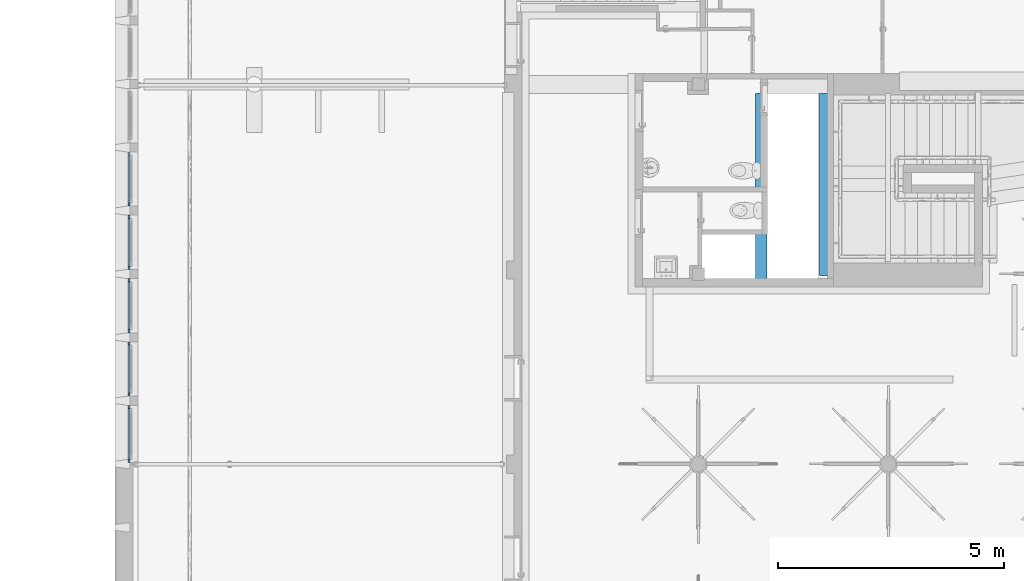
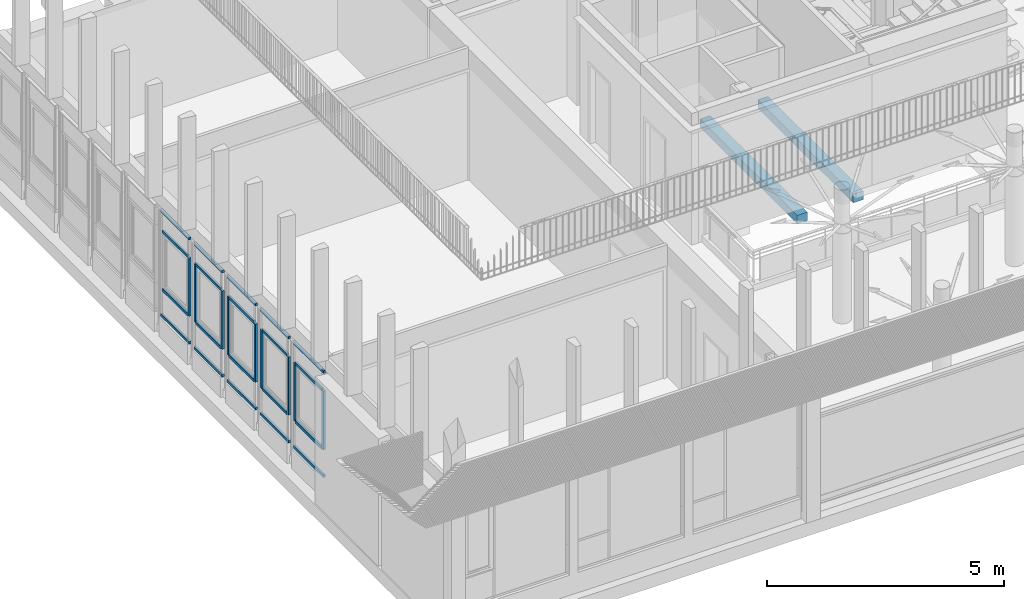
# One storey, part 5 of 65: 29 members, 2 beams, 5 elements without a shape of their own.
"""IFC4 building model written with IfcOpenShell, lengths in metres."""

from ifc_helpers import new_model, entity, si_unit, converted_unit, derived_unit, direction, frame, origin, place, context, subcontext, project, spatial, indexed_curve, outline, extrude, source, transform, mapped, material, type_object, type_shapes, element, aggregate, save


model = new_model("IFC4")

# Units and contexts
model_context = context("Model", 3, precision=1e-05, world=origin(), true_north=direction((6.12303176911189e-17, 1.0)))
body_context = subcontext(model_context, "Body", "Model", "MODEL_VIEW")
ifc_project = project(units=[si_unit("LENGTHUNIT", "METRE"), si_unit("AREAUNIT", "SQUARE_METRE"), si_unit("VOLUMEUNIT", "CUBIC_METRE"), converted_unit("PLANEANGLEUNIT", "DEGREE", entity("IfcRatioMeasure", 0.0174532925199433), si_unit("PLANEANGLEUNIT", "RADIAN"), dimensions=[0, 0, 0, 0, 0, 0, 0]), si_unit("MASSUNIT", "GRAM", prefix="KILO"), derived_unit("MASSDENSITYUNIT", [(si_unit("MASSUNIT", "GRAM", prefix="KILO"), 1), (si_unit("LENGTHUNIT", "METRE"), -3)]), derived_unit("MOMENTOFINERTIAUNIT", [(si_unit("LENGTHUNIT", "METRE"), 4)]), si_unit("TIMEUNIT", "SECOND"), si_unit("FREQUENCYUNIT", "HERTZ"), si_unit("THERMODYNAMICTEMPERATUREUNIT", "DEGREE_CELSIUS"), derived_unit("THERMALTRANSMITTANCEUNIT", [(si_unit("MASSUNIT", "GRAM", prefix="KILO"), 1), (si_unit("THERMODYNAMICTEMPERATUREUNIT", "KELVIN"), -1), (si_unit("TIMEUNIT", "SECOND"), -3)]), derived_unit("VOLUMETRICFLOWRATEUNIT", [(si_unit("LENGTHUNIT", "METRE"), 3), (si_unit("TIMEUNIT", "SECOND"), -1)]), si_unit("ELECTRICCURRENTUNIT", "AMPERE"), si_unit("ELECTRICVOLTAGEUNIT", "VOLT"), si_unit("POWERUNIT", "WATT"), si_unit("FORCEUNIT", "NEWTON", prefix="KILO"), si_unit("ILLUMINANCEUNIT", "LUX"), si_unit("LUMINOUSFLUXUNIT", "LUMEN"), si_unit("LUMINOUSINTENSITYUNIT", "CANDELA"), derived_unit("USERDEFINED", [(si_unit("MASSUNIT", "GRAM", prefix="KILO"), -1), (si_unit("LENGTHUNIT", "METRE"), -2), (si_unit("TIMEUNIT", "SECOND"), 3), (si_unit("LUMINOUSFLUXUNIT", "LUMEN"), 1)]), derived_unit("LINEARVELOCITYUNIT", [(si_unit("LENGTHUNIT", "METRE"), 1), (si_unit("TIMEUNIT", "SECOND"), -1)]), si_unit("PRESSUREUNIT", "PASCAL"), derived_unit("USERDEFINED", [(si_unit("LENGTHUNIT", "METRE"), -2), (si_unit("MASSUNIT", "GRAM", prefix="KILO"), 1), (si_unit("TIMEUNIT", "SECOND"), -2)]), derived_unit("LINEARFORCEUNIT", [(si_unit("MASSUNIT", "GRAM", prefix="KILO"), 1), (si_unit("LENGTHUNIT", "METRE"), 1), (si_unit("TIMEUNIT", "SECOND"), -2), (si_unit("LENGTHUNIT", "METRE"), -1)]), derived_unit("PLANARFORCEUNIT", [(si_unit("MASSUNIT", "GRAM", prefix="KILO"), 1), (si_unit("LENGTHUNIT", "METRE"), 1), (si_unit("TIMEUNIT", "SECOND"), -2), (si_unit("LENGTHUNIT", "METRE"), -2)])], contexts=[model_context])

# Site, building, storey
site_placement = place(None, origin())
site = spatial("IfcSite", under=ifc_project, at=site_placement, Name="Default", CompositionType="ELEMENT")
building_placement = place(site_placement, origin())
building = spatial("IfcBuilding", under=site, at=building_placement, Name="HOTEL CONSULAIRE BOULOGNE SUR MER", CompositionType="ELEMENT")
storey_placement = place(building_placement, origin())
storey = spatial("IfcBuildingStorey", under=building, at=storey_placement, Name="Niveau 0", CompositionType="ELEMENT", Elevation=1.31981936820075e-13)

# Curtain wall, members
curtain_wall_type = type_object("IfcCurtainWallType", Name="Mur-rideau:Simple panneau", PredefinedType="NOTDEFINED")
curtain_wall_1_placement = place(storey_placement, origin())
curtain_wall_1 = element("IfcCurtainWall", 1, at=curtain_wall_1_placement, inside=storey, type_object=curtain_wall_type, Name="Mur-rideau:Simple panneau", ObjectType="Mur-rideau:Simple panneau", PredefinedType="NOTDEFINED")
ifc_material_1 = material(Name="PVC - Blanc", Category="Plastique")
member_type_1 = type_object("IfcMemberType", Name="Meneau rectangulaire:50 x 35", PredefinedType="MULLION", material=ifc_material_1)
shared_shape_1 = source(origin(), body_context, "Body", "SweptSolid", [
    extrude(outline(indexed_curve([(-0.025, -0.035), (0.025, -0.035), (0.025, 0.035), (-0.025, 0.035), (-0.025, -0.035)], self_intersect=False)), frame((-0.035, -0.025, -1.26360092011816), z_axis=(0.0, 0.0, 1.0), x_axis=(0.0, -1.0, 0.0)), (0.0, 0.0, 1.0), 1.26360092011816),
])
type_shapes(member_type_1, [shared_shape_1])
member_1_placement = place(storey_placement, frame((-13.7900998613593, -22.7114499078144, 3.03999999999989), z_axis=(0.0, 1.0, 0.0), x_axis=(0.0, 0.0, 1.0)))
member_1 = element("IfcMember", 2, at=member_1_placement, type_object=member_type_1, material=ifc_material_1, Name="Meneau rectangulaire:50 x 35", ObjectType="Meneau rectangulaire:50 x 35", PredefinedType="MULLION", context=body_context, shape_type="MappedRepresentation", body=[
    mapped(shared_shape_1, transform((0.0, 0.0, 0.0), scale=1.0)),
])
member_type_2 = type_object("IfcMemberType", Name="Meneau rectangulaire:50 x 35", PredefinedType="MULLION", material=ifc_material_1)
shared_shape_2 = source(origin(), body_context, "Body", "SweptSolid", [
    extrude(outline(indexed_curve([(-0.025, -0.035), (0.025, -0.035), (0.025, 0.035), (-0.025, 0.035), (-0.025, -0.035)], self_intersect=False)), frame((-0.035, -0.025, -1.26360092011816), z_axis=(0.0, 0.0, 1.0), x_axis=(0.0, -1.0, 0.0)), (0.0, 0.0, 1.0), 1.26360092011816),
])
type_shapes(member_type_2, [shared_shape_2])
member_2_placement = place(storey_placement, frame((-13.7900998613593, -23.9750508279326, 0.289999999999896), z_axis=(0.0, -1.0, 0.0), x_axis=(0.0, 0.0, -1.0)))
member_2 = element("IfcMember", 3, at=member_2_placement, type_object=member_type_2, material=ifc_material_1, Name="Meneau rectangulaire:50 x 35", ObjectType="Meneau rectangulaire:50 x 35", PredefinedType="MULLION", context=body_context, shape_type="MappedRepresentation", body=[
    mapped(shared_shape_2, transform((0.0, 0.0, 0.0), scale=1.0)),
])
member_type_3 = type_object("IfcMemberType", Name="Meneau rectangulaire:50 x 35", PredefinedType="MULLION", material=ifc_material_1)
shared_shape_3 = source(origin(), body_context, "Body", "SweptSolid", [
    extrude(outline(indexed_curve([(-0.025, -0.035), (0.025, -0.035), (0.025, 0.035), (-0.025, 0.035), (-0.025, -0.035)], self_intersect=False)), frame((0.0, -0.025, -1.12360092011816), z_axis=(0.0, 0.0, 1.0), x_axis=(0.0, -1.0, 0.0)), (0.0, 0.0, 1.0), 1.12360092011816),
])
type_shapes(member_type_3, [shared_shape_3])
member_3_placement = place(storey_placement, frame((-13.7900998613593, -22.7814499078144, 1.0069999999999), z_axis=(0.0, 1.0, 0.0), x_axis=(0.0, 0.0, 1.0)))
member_3 = element("IfcMember", 4, at=member_3_placement, type_object=member_type_3, material=ifc_material_1, Name="Meneau rectangulaire:50 x 35", ObjectType="Meneau rectangulaire:50 x 35", PredefinedType="MULLION", context=body_context, shape_type="MappedRepresentation", body=[
    mapped(shared_shape_3, transform((0.0, 0.0, 0.0), scale=1.0)),
])
member_4_placement = place(storey_placement, frame((-13.7900998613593, -22.7814499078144, 2.5109999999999), z_axis=(0.0, 1.0, 0.0), x_axis=(0.0, 0.0, 1.0)))
member_4 = element("IfcMember", 5, at=member_4_placement, type_object=member_type_3, material=ifc_material_1, Name="Meneau rectangulaire:50 x 35", ObjectType="Meneau rectangulaire:50 x 35", PredefinedType="MULLION", context=body_context, shape_type="MappedRepresentation", body=[
    mapped(shared_shape_3, transform((0.0, 0.0, 0.0), scale=1.0)),
])
member_type_4 = type_object("IfcMemberType", Name="Meneau rectangulaire:50 x 35", PredefinedType="MULLION", material=ifc_material_1)
shared_shape_4 = source(origin(), body_context, "Body", "SweptSolid", [
    extrude(outline(indexed_curve([(-0.025, -0.035), (0.025, -0.035), (0.025, 0.035), (-0.025, 0.035), (-0.025, -0.035)], self_intersect=False)), frame((-0.035, -0.025, -1.504), z_axis=(0.0, 0.0, 1.0), x_axis=(0.0, -1.0, 0.0)), (0.0, 0.0, 1.0), 1.504),
])
type_shapes(member_type_4, [shared_shape_4])
member_5_placement = place(storey_placement, frame((-13.7900998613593, -22.7114499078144, 1.0069999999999), z_axis=(0.0, 0.0, -1.0), x_axis=(0.0, 1.0, 0.0)))
member_5 = element("IfcMember", 6, at=member_5_placement, type_object=member_type_4, material=ifc_material_1, Name="Meneau rectangulaire:50 x 35", ObjectType="Meneau rectangulaire:50 x 35", PredefinedType="MULLION", context=body_context, shape_type="MappedRepresentation", body=[
    mapped(shared_shape_4, transform((0.0, 0.0, 0.0), scale=1.0)),
])

# Curtain wall, member
curtain_wall_2_placement = place(storey_placement, origin())
curtain_wall_2 = element("IfcCurtainWall", 7, at=curtain_wall_2_placement, inside=storey, type_object=curtain_wall_type, Name="Mur-rideau:Simple panneau", ObjectType="Mur-rideau:Simple panneau", PredefinedType="NOTDEFINED")
member_6_placement = place(storey_placement, frame((-13.7900998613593, -21.3114499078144, 1.0069999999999), z_axis=(0.0, 0.0, -1.0), x_axis=(0.0, 1.0, 0.0)))
member_6 = element("IfcMember", 8, at=member_6_placement, type_object=member_type_4, material=ifc_material_1, Name="Meneau rectangulaire:50 x 35", ObjectType="Meneau rectangulaire:50 x 35", PredefinedType="MULLION", context=body_context, shape_type="MappedRepresentation", body=[
    mapped(shared_shape_4, transform((0.0, 0.0, 0.0), scale=1.0)),
])

curtain_wall_3_placement = place(storey_placement, origin())
curtain_wall_3 = element("IfcCurtainWall", 9, at=curtain_wall_3_placement, inside=storey, type_object=curtain_wall_type, Name="Mur-rideau:Simple panneau", ObjectType="Mur-rideau:Simple panneau", PredefinedType="NOTDEFINED")
member_7_placement = place(storey_placement, frame((-13.7900998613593, -19.9114499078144, 1.0069999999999), z_axis=(0.0, 0.0, -1.0), x_axis=(0.0, 1.0, 0.0)))
member_7 = element("IfcMember", 10, at=member_7_placement, type_object=member_type_4, material=ifc_material_1, Name="Meneau rectangulaire:50 x 35", ObjectType="Meneau rectangulaire:50 x 35", PredefinedType="MULLION", context=body_context, shape_type="MappedRepresentation", body=[
    mapped(shared_shape_4, transform((0.0, 0.0, 0.0), scale=1.0)),
])

curtain_wall_4_placement = place(storey_placement, origin())
curtain_wall_4 = element("IfcCurtainWall", 11, at=curtain_wall_4_placement, inside=storey, type_object=curtain_wall_type, Name="Mur-rideau:Simple panneau", ObjectType="Mur-rideau:Simple panneau", PredefinedType="NOTDEFINED")
member_8_placement = place(storey_placement, frame((-13.7900998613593, -18.5114499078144, 1.0069999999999), z_axis=(0.0, 0.0, -1.0), x_axis=(0.0, 1.0, 0.0)))
member_8 = element("IfcMember", 12, at=member_8_placement, type_object=member_type_4, material=ifc_material_1, Name="Meneau rectangulaire:50 x 35", ObjectType="Meneau rectangulaire:50 x 35", PredefinedType="MULLION", context=body_context, shape_type="MappedRepresentation", body=[
    mapped(shared_shape_4, transform((0.0, 0.0, 0.0), scale=1.0)),
])

# Member
member_type_5 = type_object("IfcMemberType", Name="Meneau rectangulaire:50 x 35", PredefinedType="MULLION", material=ifc_material_1)
shared_shape_5 = source(origin(), body_context, "Body", "SweptSolid", [
    extrude(outline(indexed_curve([(-0.025, -0.035), (0.025, -0.035), (0.025, 0.035), (-0.025, 0.035), (-0.025, -0.035)], self_intersect=False)), frame((-0.035, -0.025, -1.504), z_axis=(0.0, 0.0, 1.0), x_axis=(0.0, -1.0, 0.0)), (0.0, 0.0, 1.0), 1.504),
])
type_shapes(member_type_5, [shared_shape_5])
member_9_placement = place(storey_placement, frame((-13.7900998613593, -23.9750508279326, 2.5109999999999), z_axis=(0.0, 0.0, 1.0), x_axis=(0.0, -1.0, 0.0)))
member_9 = element("IfcMember", 13, at=member_9_placement, type_object=member_type_5, material=ifc_material_1, Name="Meneau rectangulaire:50 x 35", ObjectType="Meneau rectangulaire:50 x 35", PredefinedType="MULLION", context=body_context, shape_type="MappedRepresentation", body=[
    mapped(shared_shape_5, transform((0.0, 0.0, 0.0), scale=1.0)),
])

aggregate(curtain_wall_1, [member_1, member_2, member_3, member_4, member_5, member_9])

member_10_placement = place(storey_placement, frame((-13.7900998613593, -22.5114499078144, 2.5109999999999), z_axis=(0.0, 0.0, 1.0), x_axis=(0.0, -1.0, 0.0)))
member_10 = element("IfcMember", 14, at=member_10_placement, type_object=member_type_5, material=ifc_material_1, Name="Meneau rectangulaire:50 x 35", ObjectType="Meneau rectangulaire:50 x 35", PredefinedType="MULLION", context=body_context, shape_type="MappedRepresentation", body=[
    mapped(shared_shape_5, transform((0.0, 0.0, 0.0), scale=1.0)),
])

member_11_placement = place(storey_placement, frame((-13.7900998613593, -21.1114499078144, 2.5109999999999), z_axis=(0.0, 0.0, 1.0), x_axis=(0.0, -1.0, 0.0)))
member_11 = element("IfcMember", 15, at=member_11_placement, type_object=member_type_5, material=ifc_material_1, Name="Meneau rectangulaire:50 x 35", ObjectType="Meneau rectangulaire:50 x 35", PredefinedType="MULLION", context=body_context, shape_type="MappedRepresentation", body=[
    mapped(shared_shape_5, transform((0.0, 0.0, 0.0), scale=1.0)),
])

member_12_placement = place(storey_placement, frame((-13.7900998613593, -19.7114499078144, 2.5109999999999), z_axis=(0.0, 0.0, 1.0), x_axis=(0.0, -1.0, 0.0)))
member_12 = element("IfcMember", 16, at=member_12_placement, type_object=member_type_5, material=ifc_material_1, Name="Meneau rectangulaire:50 x 35", ObjectType="Meneau rectangulaire:50 x 35", PredefinedType="MULLION", context=body_context, shape_type="MappedRepresentation", body=[
    mapped(shared_shape_5, transform((0.0, 0.0, 0.0), scale=1.0)),
])

# Curtain wall, member
curtain_wall_5_placement = place(storey_placement, origin())
curtain_wall_5 = element("IfcCurtainWall", 17, at=curtain_wall_5_placement, inside=storey, type_object=curtain_wall_type, Name="Mur-rideau:Simple panneau", ObjectType="Mur-rideau:Simple panneau", PredefinedType="NOTDEFINED")
member_13_placement = place(storey_placement, frame((-13.7900998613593, -18.3114499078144, 2.5109999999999), z_axis=(0.0, 0.0, 1.0), x_axis=(0.0, -1.0, 0.0)))
member_13 = element("IfcMember", 18, at=member_13_placement, type_object=member_type_5, material=ifc_material_1, Name="Meneau rectangulaire:50 x 35", ObjectType="Meneau rectangulaire:50 x 35", PredefinedType="MULLION", context=body_context, shape_type="MappedRepresentation", body=[
    mapped(shared_shape_5, transform((0.0, 0.0, 0.0), scale=1.0)),
])

# Member
member_type_6 = type_object("IfcMemberType", Name="Meneau rectangulaire:50 x 35", PredefinedType="MULLION", material=ifc_material_1)
shared_shape_6 = source(origin(), body_context, "Body", "SweptSolid", [
    extrude(outline(indexed_curve([(-0.025, -0.035), (0.025, -0.035), (0.025, 0.035), (-0.025, 0.035), (-0.025, -0.035)], self_intersect=False)), frame((-0.035, -0.025, -1.20000000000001), z_axis=(0.0, 0.0, 1.0), x_axis=(0.0, -1.0, 0.0)), (0.0, 0.0, 1.0), 1.20000000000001),
])
type_shapes(member_type_6, [shared_shape_6])
member_14_placement = place(storey_placement, frame((-13.7900998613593, -21.3114499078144, 3.03999999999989), z_axis=(0.0, 1.0, 0.0), x_axis=(0.0, 0.0, 1.0)))
member_14 = element("IfcMember", 19, at=member_14_placement, type_object=member_type_6, material=ifc_material_1, Name="Meneau rectangulaire:50 x 35", ObjectType="Meneau rectangulaire:50 x 35", PredefinedType="MULLION", context=body_context, shape_type="MappedRepresentation", body=[
    mapped(shared_shape_6, transform((0.0, 0.0, 0.0), scale=1.0)),
])

member_15_placement = place(storey_placement, frame((-13.7900998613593, -19.9114499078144, 3.03999999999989), z_axis=(0.0, 1.0, 0.0), x_axis=(0.0, 0.0, 1.0)))
member_15 = element("IfcMember", 20, at=member_15_placement, type_object=member_type_6, material=ifc_material_1, Name="Meneau rectangulaire:50 x 35", ObjectType="Meneau rectangulaire:50 x 35", PredefinedType="MULLION", context=body_context, shape_type="MappedRepresentation", body=[
    mapped(shared_shape_6, transform((0.0, 0.0, 0.0), scale=1.0)),
])

member_16_placement = place(storey_placement, frame((-13.7900998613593, -18.5114499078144, 3.03999999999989), z_axis=(0.0, 1.0, 0.0), x_axis=(0.0, 0.0, 1.0)))
member_16 = element("IfcMember", 21, at=member_16_placement, type_object=member_type_6, material=ifc_material_1, Name="Meneau rectangulaire:50 x 35", ObjectType="Meneau rectangulaire:50 x 35", PredefinedType="MULLION", context=body_context, shape_type="MappedRepresentation", body=[
    mapped(shared_shape_6, transform((0.0, 0.0, 0.0), scale=1.0)),
])

member_17_placement = place(storey_placement, frame((-13.7900998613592, -17.1114499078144, 3.03999999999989), z_axis=(0.0, 1.0, 0.0), x_axis=(0.0, 0.0, 1.0)))
member_17 = element("IfcMember", 22, at=member_17_placement, type_object=member_type_6, material=ifc_material_1, Name="Meneau rectangulaire:50 x 35", ObjectType="Meneau rectangulaire:50 x 35", PredefinedType="MULLION", context=body_context, shape_type="MappedRepresentation", body=[
    mapped(shared_shape_6, transform((0.0, 0.0, 0.0), scale=1.0)),
])

member_type_7 = type_object("IfcMemberType", Name="Meneau rectangulaire:50 x 35", PredefinedType="MULLION", material=ifc_material_1)
shared_shape_7 = source(origin(), body_context, "Body", "SweptSolid", [
    extrude(outline(indexed_curve([(-0.025, -0.035), (0.025, -0.035), (0.025, 0.035), (-0.025, 0.035), (-0.025, -0.035)], self_intersect=False)), frame((-0.035, -0.025, -1.20000000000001), z_axis=(0.0, 0.0, 1.0), x_axis=(0.0, -1.0, 0.0)), (0.0, 0.0, 1.0), 1.20000000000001),
])
type_shapes(member_type_7, [shared_shape_7])
member_18_placement = place(storey_placement, frame((-13.7900998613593, -22.5114499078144, 0.289999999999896), z_axis=(0.0, -1.0, 0.0), x_axis=(0.0, 0.0, -1.0)))
member_18 = element("IfcMember", 23, at=member_18_placement, type_object=member_type_7, material=ifc_material_1, Name="Meneau rectangulaire:50 x 35", ObjectType="Meneau rectangulaire:50 x 35", PredefinedType="MULLION", context=body_context, shape_type="MappedRepresentation", body=[
    mapped(shared_shape_7, transform((0.0, 0.0, 0.0), scale=1.0)),
])

member_19_placement = place(storey_placement, frame((-13.7900998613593, -21.1114499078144, 0.289999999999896), z_axis=(0.0, -1.0, 0.0), x_axis=(0.0, 0.0, -1.0)))
member_19 = element("IfcMember", 24, at=member_19_placement, type_object=member_type_7, material=ifc_material_1, Name="Meneau rectangulaire:50 x 35", ObjectType="Meneau rectangulaire:50 x 35", PredefinedType="MULLION", context=body_context, shape_type="MappedRepresentation", body=[
    mapped(shared_shape_7, transform((0.0, 0.0, 0.0), scale=1.0)),
])

member_20_placement = place(storey_placement, frame((-13.7900998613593, -19.7114499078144, 0.289999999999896), z_axis=(0.0, -1.0, 0.0), x_axis=(0.0, 0.0, -1.0)))
member_20 = element("IfcMember", 25, at=member_20_placement, type_object=member_type_7, material=ifc_material_1, Name="Meneau rectangulaire:50 x 35", ObjectType="Meneau rectangulaire:50 x 35", PredefinedType="MULLION", context=body_context, shape_type="MappedRepresentation", body=[
    mapped(shared_shape_7, transform((0.0, 0.0, 0.0), scale=1.0)),
])

member_21_placement = place(storey_placement, frame((-13.7900998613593, -18.3114499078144, 0.289999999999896), z_axis=(0.0, -1.0, 0.0), x_axis=(0.0, 0.0, -1.0)))
member_21 = element("IfcMember", 26, at=member_21_placement, type_object=member_type_7, material=ifc_material_1, Name="Meneau rectangulaire:50 x 35", ObjectType="Meneau rectangulaire:50 x 35", PredefinedType="MULLION", context=body_context, shape_type="MappedRepresentation", body=[
    mapped(shared_shape_7, transform((0.0, 0.0, 0.0), scale=1.0)),
])

member_type_8 = type_object("IfcMemberType", Name="Meneau rectangulaire:50 x 35", PredefinedType="MULLION", material=ifc_material_1)
shared_shape_8 = source(origin(), body_context, "Body", "SweptSolid", [
    extrude(outline(indexed_curve([(-0.025, -0.035), (0.025, -0.035), (0.025, 0.035), (-0.025, 0.035), (-0.025, -0.035)], self_intersect=False)), frame((0.0, -0.025, -1.06000000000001), z_axis=(0.0, 0.0, 1.0), x_axis=(0.0, -1.0, 0.0)), (0.0, 0.0, 1.0), 1.06000000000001),
])
type_shapes(member_type_8, [shared_shape_8])
member_22_placement = place(storey_placement, frame((-13.7900998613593, -21.3814499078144, 1.0069999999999), z_axis=(0.0, 1.0, 0.0), x_axis=(0.0, 0.0, 1.0)))
member_22 = element("IfcMember", 27, at=member_22_placement, type_object=member_type_8, material=ifc_material_1, Name="Meneau rectangulaire:50 x 35", ObjectType="Meneau rectangulaire:50 x 35", PredefinedType="MULLION", context=body_context, shape_type="MappedRepresentation", body=[
    mapped(shared_shape_8, transform((0.0, 0.0, 0.0), scale=1.0)),
])

member_23_placement = place(storey_placement, frame((-13.7900998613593, -21.3814499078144, 2.5109999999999), z_axis=(0.0, 1.0, 0.0), x_axis=(0.0, 0.0, 1.0)))
member_23 = element("IfcMember", 28, at=member_23_placement, type_object=member_type_8, material=ifc_material_1, Name="Meneau rectangulaire:50 x 35", ObjectType="Meneau rectangulaire:50 x 35", PredefinedType="MULLION", context=body_context, shape_type="MappedRepresentation", body=[
    mapped(shared_shape_8, transform((0.0, 0.0, 0.0), scale=1.0)),
])

aggregate(curtain_wall_2, [member_14, member_18, member_22, member_23, member_6, member_10])

member_24_placement = place(storey_placement, frame((-13.7900998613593, -19.9814499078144, 1.0069999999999), z_axis=(0.0, 1.0, 0.0), x_axis=(0.0, 0.0, 1.0)))
member_24 = element("IfcMember", 29, at=member_24_placement, type_object=member_type_8, material=ifc_material_1, Name="Meneau rectangulaire:50 x 35", ObjectType="Meneau rectangulaire:50 x 35", PredefinedType="MULLION", context=body_context, shape_type="MappedRepresentation", body=[
    mapped(shared_shape_8, transform((0.0, 0.0, 0.0), scale=1.0)),
])

member_25_placement = place(storey_placement, frame((-13.7900998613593, -19.9814499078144, 2.5109999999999), z_axis=(0.0, 1.0, 0.0), x_axis=(0.0, 0.0, 1.0)))
member_25 = element("IfcMember", 30, at=member_25_placement, type_object=member_type_8, material=ifc_material_1, Name="Meneau rectangulaire:50 x 35", ObjectType="Meneau rectangulaire:50 x 35", PredefinedType="MULLION", context=body_context, shape_type="MappedRepresentation", body=[
    mapped(shared_shape_8, transform((0.0, 0.0, 0.0), scale=1.0)),
])

aggregate(curtain_wall_3, [member_15, member_19, member_24, member_25, member_7, member_11])

member_26_placement = place(storey_placement, frame((-13.7900998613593, -18.5814499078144, 1.0069999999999), z_axis=(0.0, 1.0, 0.0), x_axis=(0.0, 0.0, 1.0)))
member_26 = element("IfcMember", 31, at=member_26_placement, type_object=member_type_8, material=ifc_material_1, Name="Meneau rectangulaire:50 x 35", ObjectType="Meneau rectangulaire:50 x 35", PredefinedType="MULLION", context=body_context, shape_type="MappedRepresentation", body=[
    mapped(shared_shape_8, transform((0.0, 0.0, 0.0), scale=1.0)),
])

member_27_placement = place(storey_placement, frame((-13.7900998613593, -18.5814499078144, 2.5109999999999), z_axis=(0.0, 1.0, 0.0), x_axis=(0.0, 0.0, 1.0)))
member_27 = element("IfcMember", 32, at=member_27_placement, type_object=member_type_8, material=ifc_material_1, Name="Meneau rectangulaire:50 x 35", ObjectType="Meneau rectangulaire:50 x 35", PredefinedType="MULLION", context=body_context, shape_type="MappedRepresentation", body=[
    mapped(shared_shape_8, transform((0.0, 0.0, 0.0), scale=1.0)),
])

aggregate(curtain_wall_4, [member_16, member_20, member_26, member_27, member_8, member_12])

member_28_placement = place(storey_placement, frame((-13.7900998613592, -17.1814499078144, 1.0069999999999), z_axis=(0.0, 1.0, 0.0), x_axis=(0.0, 0.0, 1.0)))
member_28 = element("IfcMember", 33, at=member_28_placement, type_object=member_type_8, material=ifc_material_1, Name="Meneau rectangulaire:50 x 35", ObjectType="Meneau rectangulaire:50 x 35", PredefinedType="MULLION", context=body_context, shape_type="MappedRepresentation", body=[
    mapped(shared_shape_8, transform((0.0, 0.0, 0.0), scale=1.0)),
])

member_29_placement = place(storey_placement, frame((-13.7900998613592, -17.1814499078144, 2.5109999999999), z_axis=(0.0, 1.0, 0.0), x_axis=(0.0, 0.0, 1.0)))
member_29 = element("IfcMember", 34, at=member_29_placement, type_object=member_type_8, material=ifc_material_1, Name="Meneau rectangulaire:50 x 35", ObjectType="Meneau rectangulaire:50 x 35", PredefinedType="MULLION", context=body_context, shape_type="MappedRepresentation", body=[
    mapped(shared_shape_8, transform((0.0, 0.0, 0.0), scale=1.0)),
])

aggregate(curtain_wall_5, [member_17, member_21, member_28, member_29, member_13])

# Beams
ifc_material_2 = material(Name="Béton - Béton coulé sur place", Category="Béton")
beam_type_1 = type_object("IfcBeamType", Name="Poutre rectangulaire - Béton:250x220", PredefinedType="BEAM", material=ifc_material_2)
shared_shape_9 = source(origin(), body_context, "Body", "SweptSolid", [
    extrude(outline(indexed_curve([(-0.125, -0.11), (0.125, -0.11), (0.125, 0.11), (-0.125, 0.11), (-0.125, -0.11)], self_intersect=False)), frame((0.16254017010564, -15.8256940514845, -0.37999999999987), z_axis=(0.0, -1.0, 0.0), x_axis=(-1.0, 0.0, 0.0)), (0.0, 0.0, 1.0), 4.10159626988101),
])
type_shapes(beam_type_1, [shared_shape_9])
beam_1_placement = place(storey_placement, origin())
element("IfcBeam", 35, at=beam_1_placement, inside=storey, type_object=beam_type_1, material=ifc_material_2, Name="Poutre rectangulaire - Béton:250x220", ObjectType="Poutre rectangulaire - Béton:250x220", PredefinedType="BEAM", context=body_context, shape_type="MappedRepresentation", body=[
    mapped(shared_shape_9, transform((0.0, 0.0, 0.0), scale=1.0)),
])
beam_type_2 = type_object("IfcBeamType", Name="Poutre rectangulaire - Béton:250x220", PredefinedType="BEAM", material=ifc_material_2)
shared_shape_10 = source(origin(), body_context, "Body", "SweptSolid", [
    extrude(outline(indexed_curve([(-0.125, -0.11), (0.125, -0.11), (0.125, 0.11), (-0.125, 0.11), (-0.125, -0.11)], self_intersect=False)), frame((1.57054017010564, -15.8256940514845, -0.37999999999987), z_axis=(0.0, -1.0, 0.0), x_axis=(-1.0, 0.0, 0.0)), (0.0, 0.0, 1.0), 4.02159626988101),
])
type_shapes(beam_type_2, [shared_shape_10])
beam_2_placement = place(storey_placement, origin())
element("IfcBeam", 36, at=beam_2_placement, inside=storey, type_object=beam_type_2, material=ifc_material_2, Name="Poutre rectangulaire - Béton:250x220", ObjectType="Poutre rectangulaire - Béton:250x220", PredefinedType="BEAM", context=body_context, shape_type="MappedRepresentation", body=[
    mapped(shared_shape_10, transform((0.0, 0.0, 0.0), scale=1.0)),
])

save(model, "model.ifc")
